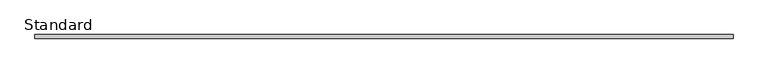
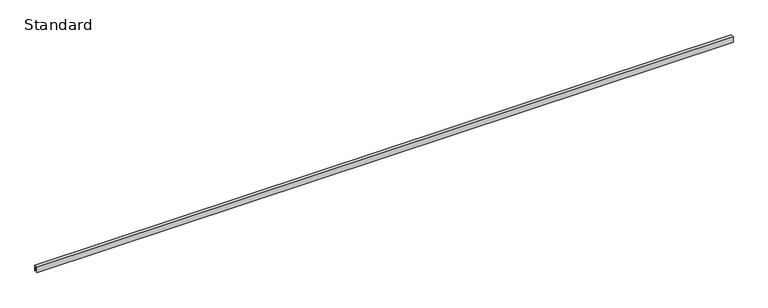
"""IFC4 building model written with IfcOpenShell, lengths in millimetres: furniture geometry, X_Partition-Channel-Duracube-Ceiling : Standard."""

from ifc_helpers import new_model, si_unit, frame, origin, place, context, project, spatial, polyline, outline, extrude, source, transform, mapped, element, save


def standard_e386308a(model_context):
    return source(origin(), model_context, "Body", "SweptSolid", [
        extrude(outline(polyline([(0.0, 0.0), (-2.0, 0.0), (-2.0, 24.0), (-15.0, 24.0), (-15.0, 0.0), (-17.0, 0.0), (-17.0, 26.0), (0.0, 26.0), (0.0, 0.0)])), frame((-1607.2996736, 0.0, 0.0), z_axis=(1.0, 0.0, 0.0), x_axis=(0.0, 1.0, 0.0)), (0.0, 0.0, 1.0), 3304.0),
    ])


if __name__ == "__main__":
    model = new_model("IFC4")
    model_context = context("Model", 3, world=origin())
    ifc_project = project(units=[si_unit("LENGTHUNIT", "METRE", prefix="MILLI")], contexts=[model_context])
    site = spatial("IfcSite", under=ifc_project)
    building = spatial("IfcBuilding", under=site)
    placement = place(None, origin())
    standard_shape = standard_e386308a(model_context)
    element("IfcFurniture", 1, ObjectType="X_Partition-Channel-Duracube-Ceiling : Standard", at=placement, inside=building, context=model_context, shape_type="MappedRepresentation", body=[
        mapped(standard_shape, transform((0.0, 0.0, 0.0), x_axis=(1.0, 0.0, 0.0), y_axis=(0.0, 1.0, 0.0), z_axis=(0.0, 0.0, 1.0))),
    ])
    save(model, "model.ifc")
